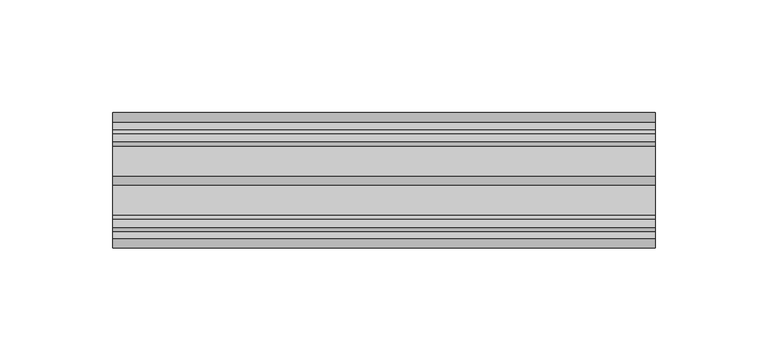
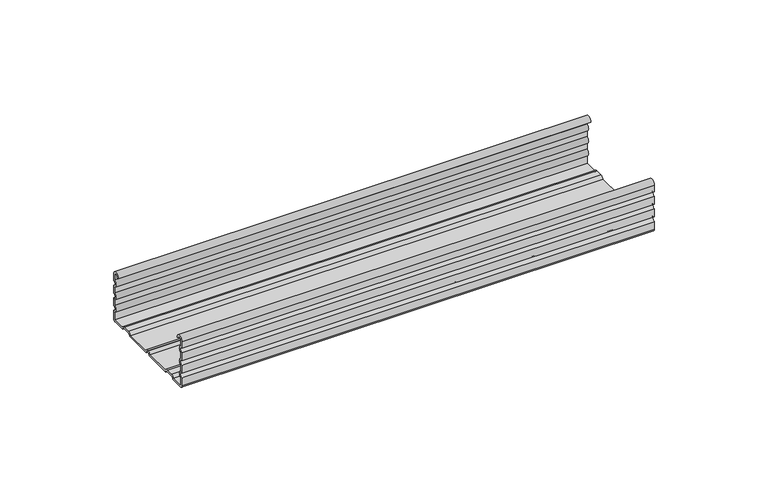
"""IFC4 building model written with IfcOpenShell, lengths in millimetres: proxy geometry, КНАУФ_Профильl ПП 60x27 : КНАУФ_Профильl ПП 60x27."""

from ifc_helpers import new_model, si_unit, point, frame, frame_2d, origin, origin_2d, place, context, project, spatial, polyline, circle_curve, trimmed, segment, composite_curve, outline, extrude, source, transform, mapped, element, save


def mechanical_equipment_8723e74f(model_context):
    return source(origin(), model_context, "Body", "SweptSolid", [
        extrude(outline(composite_curve([segment(polyline([(26.6623525, 24.93), (25.8623525, 24.93)]), True, "CONTINUOUS"), segment(trimmed(circle_curve(frame_2d((27.9311762, 24.93)), 2.0688238), [point((25.8623525, 24.93))], [point((30.0, 24.93))], False, "CARTESIAN"), True, "CONTINUOUS"), segment(polyline([(30.0, 24.93), (30.0, 21.5430149)]), True, "CONTINUOUS"), segment(trimmed(circle_curve(frame_2d((30.0, 20.25)), 1.2930149), [point((30.0, 21.5430149))], [point((30.0, 18.9569851))], True, "CARTESIAN"), True, "CONTINUOUS"), segment(polyline([(30.0, 18.9569851), (30.0, 14.7930149)]), True, "CONTINUOUS"), segment(trimmed(circle_curve(frame_2d((30.0, 13.5)), 1.2930149), [point((30.0, 14.7930149))], [point((30.0, 12.2069851))], True, "CARTESIAN"), True, "CONTINUOUS"), segment(polyline([(30.0, 12.2069851), (30.0, 8.0430149)]), True, "CONTINUOUS"), segment(trimmed(circle_curve(frame_2d((30.0, 6.75)), 1.2930149), [point((30.0, 8.0430149))], [point((30.0, 5.4569851))], True, "CARTESIAN"), True, "CONTINUOUS"), segment(polyline([(30.0, 5.4569851), (30.0, 1.2930149)]), True, "CONTINUOUS"), segment(trimmed(circle_curve(frame_2d((28.7069851, 1.2930149)), 1.2930149), [point((30.0, 1.2930149))], [point((28.7069851, 0.0))], False, "CARTESIAN"), True, "CONTINUOUS"), segment(polyline([(28.7069851, 0.0), (22.0489776, 0.0)]), True, "CONTINUOUS"), segment(trimmed(circle_curve(frame_2d((20.7668677, -0.1675758)), 1.2930149), [point((22.0489776, 0.0))], [point((20.7668677, 1.1254391))], True, "CARTESIAN"), True, "CONTINUOUS"), segment(polyline([(20.7668677, 1.1254391), (17.1471022, 1.1254391)]), True, "CONTINUOUS"), segment(trimmed(circle_curve(frame_2d((17.1471022, -0.1675758)), 1.2930149), [point((17.1471022, 1.1254391))], [point((15.8649924, 0.0))], True, "CARTESIAN"), True, "CONTINUOUS"), segment(polyline([(15.8649924, 0.0), (1.2930149, 0.0)]), True, "CONTINUOUS"), segment(trimmed(circle_curve(origin_2d(), 1.2930149), [point((1.2930149, 0.0))], [point((-1.2930149, 0.0))], True, "CARTESIAN"), True, "CONTINUOUS"), segment(polyline([(-1.2930149, 0.0), (-15.772435, 0.0)]), True, "CONTINUOUS"), segment(trimmed(circle_curve(frame_2d((-17.1471022, -0.2768239)), 1.402263), [point((-15.772435, 0.0))], [point((-17.1471022, 1.1254391))], True, "CARTESIAN"), True, "CONTINUOUS"), segment(polyline([(-17.1471022, 1.1254391), (-20.7668677, 1.1254391)]), True, "CONTINUOUS"), segment(trimmed(circle_curve(frame_2d((-20.7668677, -0.1675758)), 1.2930149), [point((-20.7668677, 1.1254391))], [point((-22.0489776, 0.0))], True, "CARTESIAN"), True, "CONTINUOUS"), segment(polyline([(-22.0489776, 0.0), (-28.7069851, 0.0)]), True, "CONTINUOUS"), segment(trimmed(circle_curve(frame_2d((-28.7069851, 1.2930149)), 1.2930149), [point((-28.7069851, 0.0))], [point((-30.0, 1.2930149))], False, "CARTESIAN"), True, "CONTINUOUS"), segment(polyline([(-30.0, 1.2930149), (-30.0, 5.4569851)]), True, "CONTINUOUS"), segment(trimmed(circle_curve(frame_2d((-30.0, 6.75)), 1.2930149), [point((-30.0, 5.4569851))], [point((-30.0, 8.0430149))], True, "CARTESIAN"), True, "CONTINUOUS"), segment(polyline([(-30.0, 8.0430149), (-30.0, 12.2069851)]), True, "CONTINUOUS"), segment(trimmed(circle_curve(frame_2d((-30.0, 13.5)), 1.2930149), [point((-30.0, 12.2069851))], [point((-30.0, 14.7930149))], True, "CARTESIAN"), True, "CONTINUOUS"), segment(polyline([(-30.0, 14.7930149), (-30.0, 18.9569851)]), True, "CONTINUOUS"), segment(trimmed(circle_curve(frame_2d((-30.0, 20.25)), 1.2930149), [point((-30.0, 18.9569851))], [point((-30.0, 21.5430149))], True, "CARTESIAN"), True, "CONTINUOUS"), segment(polyline([(-30.0, 21.5430149), (-30.0, 24.9997726)]), True, "CONTINUOUS"), segment(trimmed(circle_curve(frame_2d((-27.9311762, 24.93)), 2.07), [point((-30.0, 24.9997726))], [point((-25.8611762, 24.93))], False, "CARTESIAN"), True, "CONTINUOUS"), segment(polyline([(-25.8611762, 24.93), (-26.6611762, 24.93)]), True, "CONTINUOUS"), segment(trimmed(circle_curve(frame_2d((-27.9311762, 24.93)), 1.27), [point((-26.6611762, 24.93))], [point((-29.2, 24.9846466))], True, "CARTESIAN"), True, "CONTINUOUS"), segment(polyline([(-29.2, 24.9846466), (-29.2, 22.1840918)]), True, "CONTINUOUS"), segment(trimmed(circle_curve(frame_2d((-30.0, 20.25)), 2.0930149), [point((-29.2, 22.1840918))], [point((-29.2, 18.3159082))], False, "CARTESIAN"), True, "CONTINUOUS"), segment(polyline([(-29.2, 18.3159082), (-29.2, 15.4340918)]), True, "CONTINUOUS"), segment(trimmed(circle_curve(frame_2d((-30.0, 13.5)), 2.0930149), [point((-29.2, 15.4340918))], [point((-29.2, 11.5659082))], False, "CARTESIAN"), True, "CONTINUOUS"), segment(polyline([(-29.2, 11.5659082), (-29.2, 8.6840918)]), True, "CONTINUOUS"), segment(trimmed(circle_curve(frame_2d((-30.0, 6.75)), 2.0930149), [point((-29.2, 8.6840918))], [point((-29.2, 4.8159082))], False, "CARTESIAN"), True, "CONTINUOUS"), segment(polyline([(-29.2, 4.8159082), (-29.2, 0.8), (-22.6228064, 0.8)]), True, "CONTINUOUS"), segment(trimmed(circle_curve(frame_2d((-20.7668677, -0.1675758)), 2.0930149), [point((-22.6228064, 0.8))], [point((-20.7668677, 1.9254391))], False, "CARTESIAN"), True, "CONTINUOUS"), segment(polyline([(-20.7668677, 1.9254391), (-17.1471022, 1.9254391)]), True, "CONTINUOUS"), segment(trimmed(circle_curve(frame_2d((-17.1471022, -0.2768239)), 2.202263), [point((-17.1471022, 1.9254391))], [point((-15.2260576, 0.8))], False, "CARTESIAN"), True, "CONTINUOUS"), segment(polyline([(-15.2260576, 0.8), (-1.9340918, 0.8)]), True, "CONTINUOUS"), segment(trimmed(circle_curve(origin_2d(), 2.0930149), [point((-1.9340918, 0.8))], [point((1.9340918, 0.8))], False, "CARTESIAN"), True, "CONTINUOUS"), segment(polyline([(1.9340918, 0.8), (15.2911636, 0.8)]), True, "CONTINUOUS"), segment(trimmed(circle_curve(frame_2d((17.1471022, -0.1675758)), 2.0930149), [point((15.2911636, 0.8))], [point((17.1471022, 1.9254391))], False, "CARTESIAN"), True, "CONTINUOUS"), segment(polyline([(17.1471022, 1.9254391), (20.7668677, 1.9254391)]), True, "CONTINUOUS"), segment(trimmed(circle_curve(frame_2d((20.7668677, -0.1675758)), 2.0930149), [point((20.7668677, 1.9254391))], [point((22.6228064, 0.8))], False, "CARTESIAN"), True, "CONTINUOUS"), segment(polyline([(22.6228064, 0.8), (29.2, 0.8), (29.2, 4.8159082)]), True, "CONTINUOUS"), segment(trimmed(circle_curve(frame_2d((30.0, 6.75)), 2.0930149), [point((29.2, 4.8159082))], [point((29.2, 8.6840918))], False, "CARTESIAN"), True, "CONTINUOUS"), segment(polyline([(29.2, 8.6840918), (29.2, 11.5659082)]), True, "CONTINUOUS"), segment(trimmed(circle_curve(frame_2d((30.0, 13.5)), 2.0930149), [point((29.2, 11.5659082))], [point((29.2, 15.4340918))], False, "CARTESIAN"), True, "CONTINUOUS"), segment(polyline([(29.2, 15.4340918), (29.2, 18.3159082)]), True, "CONTINUOUS"), segment(trimmed(circle_curve(frame_2d((30.0, 20.25)), 2.0930149), [point((29.2, 18.3159082))], [point((29.2, 22.1840918))], False, "CARTESIAN"), True, "CONTINUOUS"), segment(polyline([(29.2, 22.1840918), (29.2, 24.93)]), True, "CONTINUOUS"), segment(trimmed(circle_curve(frame_2d((27.9311762, 24.93)), 1.2688238), [point((29.2, 24.93))], [point((26.6623525, 24.93))], True, "CARTESIAN"), True, "CONTINUOUS")], self_intersect=False)), frame((0.0, 0.0, 0.0), z_axis=(1.0, 0.0, 0.0), x_axis=(0.0, 1.0, 0.0)), (0.0, 0.0, 1.0), 240.0),
    ])


if __name__ == "__main__":
    model = new_model("IFC4")
    model_context = context("Model", 3, world=origin())
    ifc_project = project(units=[si_unit("LENGTHUNIT", "METRE", prefix="MILLI")], contexts=[model_context])
    site = spatial("IfcSite", under=ifc_project)
    building = spatial("IfcBuilding", under=site)
    placement = place(None, origin())
    mechanical_equipment_shape = mechanical_equipment_8723e74f(model_context)
    element("IfcBuildingElementProxy", 1, Name="КНАУФ_Профильl ПП 60x27 : КНАУФ_Профильl ПП 60x27", ObjectType="КНАУФ_Профильl ПП 60x27 : КНАУФ_Профильl ПП 60x27", at=placement, inside=building, context=model_context, shape_type="MappedRepresentation", body=[
        mapped(mechanical_equipment_shape, transform((0.0, 0.0, 0.0), x_axis=(1.0, 0.0, 0.0), y_axis=(0.0, 1.0, 0.0), z_axis=(0.0, 0.0, 1.0))),
    ])
    save(model, "model.ifc")
